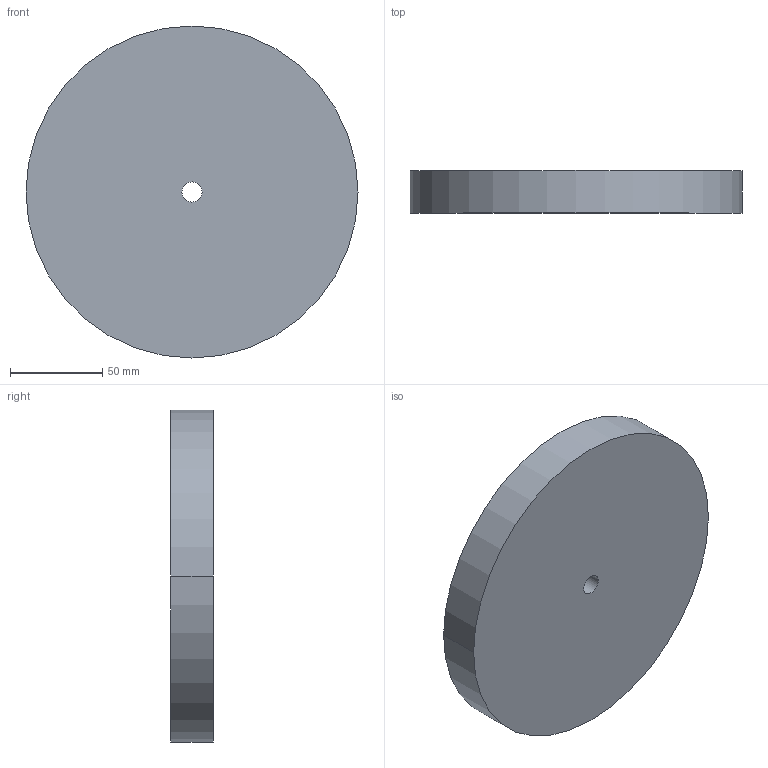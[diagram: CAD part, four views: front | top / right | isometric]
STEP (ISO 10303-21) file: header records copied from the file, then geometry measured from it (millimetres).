
FILE_DESCRIPTION((''),'1');
FILE_NAME('LALBG_size-165.step','2025-12-09T15:39:08',(''),(''),'','','');
FILE_SCHEMA(('AUTOMOTIVE_DESIGN { 1 0 10303 214 1 1 1 1 }'));
Products named in the file (1): LALBG size-165
Bounding box: 180 x 23 x 180 mm (x, y, z)
Volume: 512871.3 mm3; surface area: 66493.4 mm2
Topology: 1 solids, 1 shells, 12 faces, 24 edges, 16 vertices
Faces by surface type: cylinder 8, plane 4
Entity records: 354 total; most frequent: DIRECTION 66, CARTESIAN_POINT 53, ORIENTED_EDGE 48, AXIS2_PLACEMENT_3D 29, EDGE_CURVE 24, EDGE_LOOP 16, VERTEX_POINT 16, CIRCLE 16
